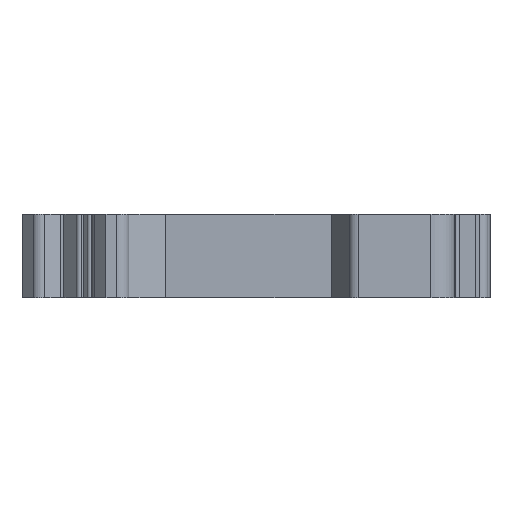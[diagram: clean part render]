
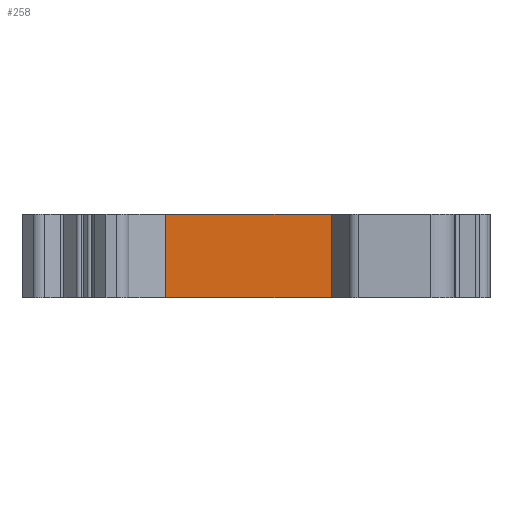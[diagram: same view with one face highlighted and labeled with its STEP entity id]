
A CAD part, left-side view. The second image highlights one B-rep face of the part: STEP entity #258.
In plain terms, the highlighted planar face has unit normal (-1, 0, 0).
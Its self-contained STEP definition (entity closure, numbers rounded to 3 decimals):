
#258=ADVANCED_FACE('',(#473),#381,.T.);
#381=PLANE('',#2718);
#473=FACE_OUTER_BOUND('',#601,.T.);
#601=EDGE_LOOP('',(#798,#799,#800,#801));
#798=ORIENTED_EDGE('',*,*,#1784,.F.);
#799=ORIENTED_EDGE('',*,*,#1783,.F.);
#800=ORIENTED_EDGE('',*,*,#1785,.T.);
#801=ORIENTED_EDGE('',*,*,#1786,.T.);
#1508=VERTEX_POINT('',#3750);
#1509=VERTEX_POINT('',#3752);
#1510=VERTEX_POINT('',#3756);
#1511=VERTEX_POINT('',#3758);
#1783=EDGE_CURVE('',#1509,#1508,#2151,.T.);
#1784=EDGE_CURVE('',#1508,#1510,#2152,.T.);
#1785=EDGE_CURVE('',#1509,#1511,#2153,.T.);
#1786=EDGE_CURVE('',#1511,#1510,#2154,.T.);
#2151=LINE('',#3753,#2447);
#2152=LINE('',#3755,#2448);
#2153=LINE('',#3757,#2449);
#2154=LINE('',#3759,#2450);
#2447=VECTOR('',#3020,1.);
#2448=VECTOR('',#3023,1.);
#2449=VECTOR('',#3024,1.);
#2450=VECTOR('',#3025,1.);
#2718=AXIS2_PLACEMENT_3D('',#3760,#3026,#3027);
#3020=DIRECTION('',(0.,0.,1.));
#3023=DIRECTION('',(0.,-1.,0.));
#3024=DIRECTION('',(0.,-1.,0.));
#3025=DIRECTION('',(0.,0.,1.));
#3026=DIRECTION('',(-1.,0.,0.));
#3027=DIRECTION('',(0.,0.,-1.));
#3750=CARTESIAN_POINT('',(1144.165,-1823.335,3.));
#3752=CARTESIAN_POINT('',(1144.165,-1823.335,-5.2));
#3753=CARTESIAN_POINT('',(1144.165,-1823.335,-5.2));
#3755=CARTESIAN_POINT('',(1144.165,-1823.335,3.));
#3756=CARTESIAN_POINT('',(1144.165,-1839.635,3.));
#3757=CARTESIAN_POINT('',(1144.165,-1823.335,-5.2));
#3758=CARTESIAN_POINT('',(1144.165,-1839.635,-5.2));
#3759=CARTESIAN_POINT('',(1144.165,-1839.635,-5.2));
#3760=CARTESIAN_POINT('',(1144.165,-1823.335,-5.2));
